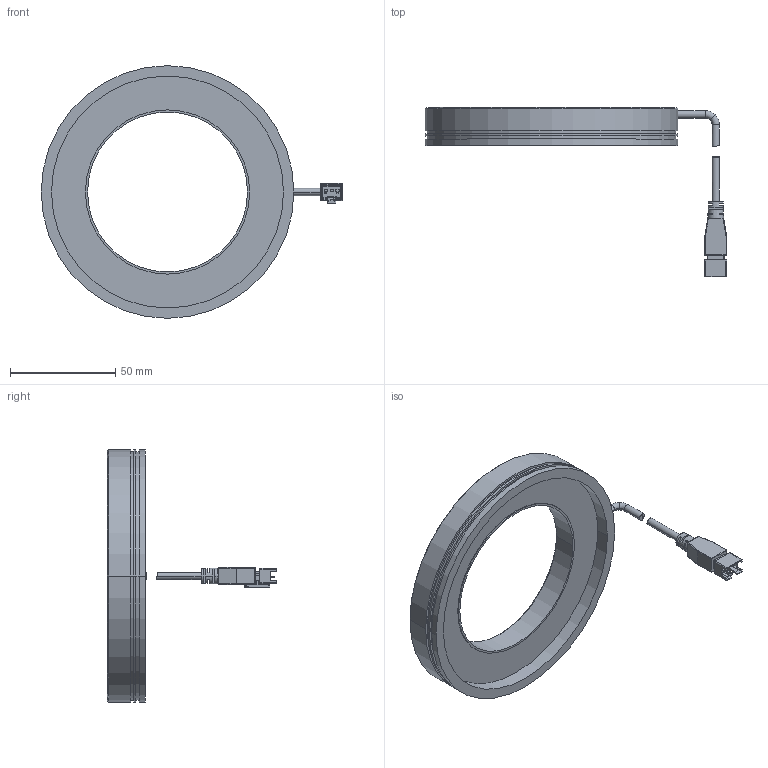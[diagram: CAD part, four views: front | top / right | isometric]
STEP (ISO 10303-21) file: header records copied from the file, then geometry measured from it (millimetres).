
FILE_DESCRIPTION((''),'2;1');
FILE_NAME('MV-LRDS-120-90_ASM','2019-09-19T',('rs-zhongwm'),(''),'PRO/ENGINEER BY PARAMETRIC TECHNOLOGY CORPORATION, 2010100','PRO/ENGINEER BY PARAMETRIC TECHNOLOGY CORPORATION, 2010100','');
FILE_SCHEMA(('CONFIG_CONTROL_DESIGN'));
Length unit declared in the file: millimetre
Products named in the file (5): PRT0044; PRT0045; PRT0046; ASM0027_ASM; MV-LRDS-120-90_ASM
Assembly tree (4 placements, depth 3):
  MV-LRDS-120-90_ASM
    PRT0044
    ASM0027_ASM
      PRT0045
      PRT0046
Bounding box: 143.25 x 80.3 x 120 mm (x, y, z)
Volume: 91076.6 mm3; surface area: 29596.4 mm2
Topology: 3 solids, 7 shells, 278 faces, 702 edges, 437 vertices
Faces by surface type: plane 139, cylinder 97, cone 14, torus 12, bspline 8, sphere 8
Entity records: 8607 total; most frequent: CARTESIAN_POINT 1807, DIRECTION 1438, ORIENTED_EDGE 1356, EDGE_CURVE 686, AXIS2_PLACEMENT_3D 515, VERTEX_POINT 437, VECTOR 408, LINE 408
